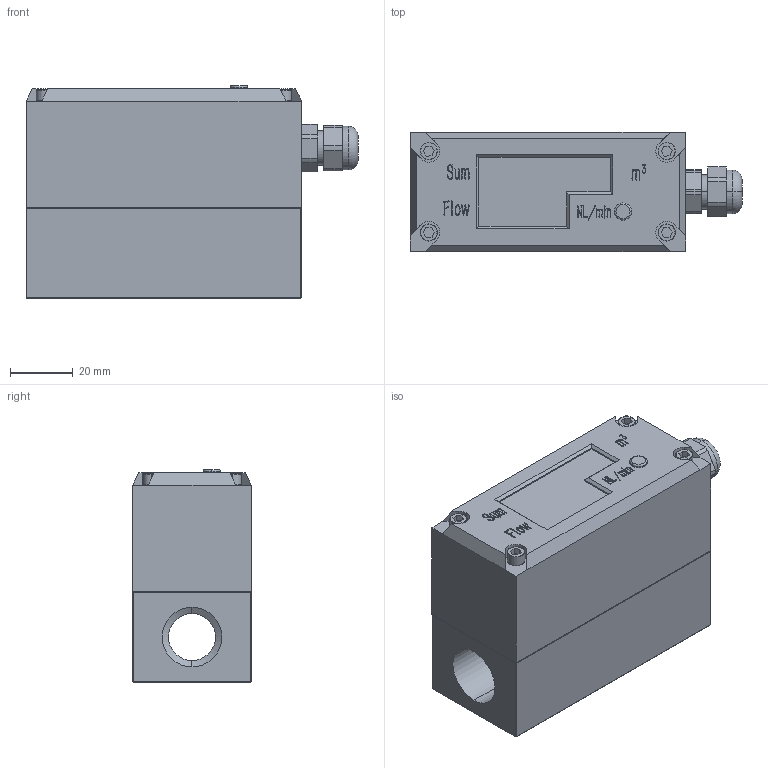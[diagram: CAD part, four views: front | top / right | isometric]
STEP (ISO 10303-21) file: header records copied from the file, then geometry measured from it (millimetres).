
FILE_DESCRIPTION (( 'STEP AP203' ), '1' );
FILE_NAME ('重庆捷定力MF615 流量计3D图示 step.STEP', '2023-07-17T05:14:30', ( '微软用户' ), ( '微软中国' ), 'SwSTEP 2.0', 'SolidWorks 2016', '' );
FILE_SCHEMA (( 'CONFIG_CONTROL_DESIGN' ));
Length unit declared in the file: millimetre
Products named in the file (4): M3蹟邡; 重庆捷定力MF615 流量计3D图示 step; MF615菁釱; MF600 珆尨耀輸
Assembly tree (6 placements, depth 2):
  重庆捷定力MF615 流量计3D图示 step
    MF615菁釱
    MF600 珆尨耀輸
    M3蹟邡  x4
Bounding box: 106 x 38 x 68 mm (x, y, z)
Volume: 205696.8 mm3; surface area: 36041 mm2
Topology: 6 solids, 6 shells, 538 faces, 1411 edges, 916 vertices
Faces by surface type: plane 312, bspline 147, cylinder 47, torus 20, cone 12
Entity records: 21521 total; most frequent: CARTESIAN_POINT 9997, ORIENTED_EDGE 2570, DIRECTION 1759, EDGE_CURVE 1285, VECTOR 903, LINE 903, VERTEX_POINT 838, EDGE_LOOP 505
